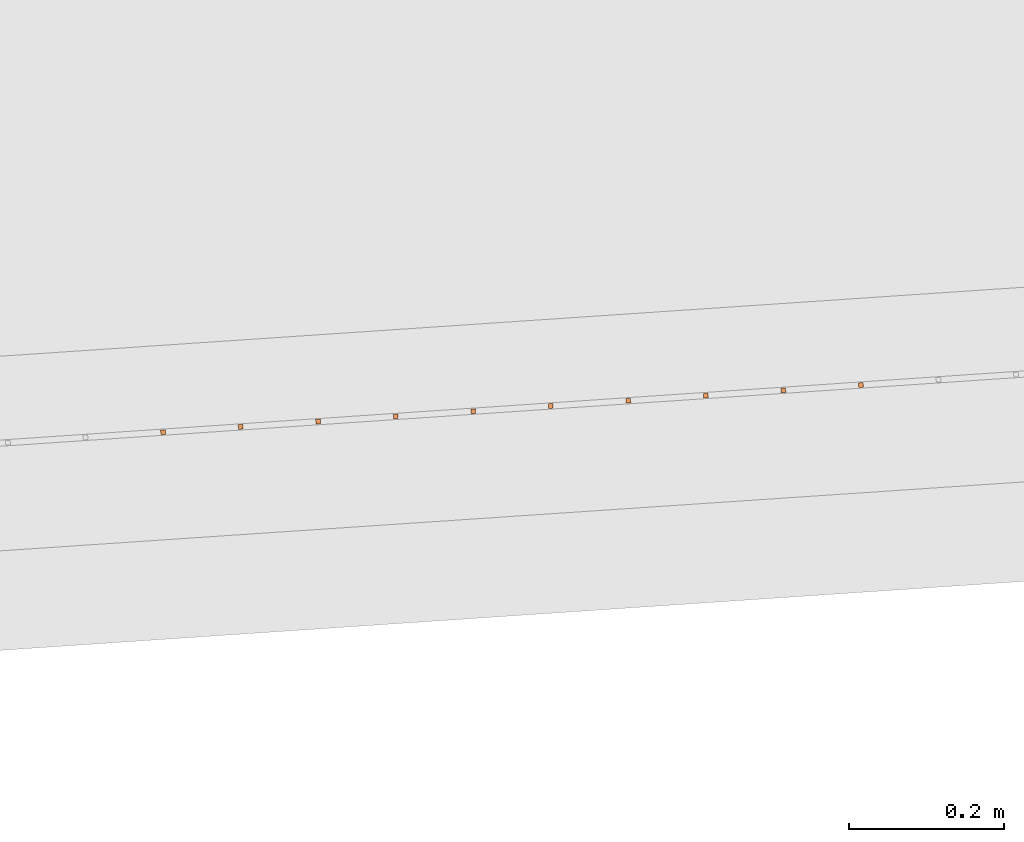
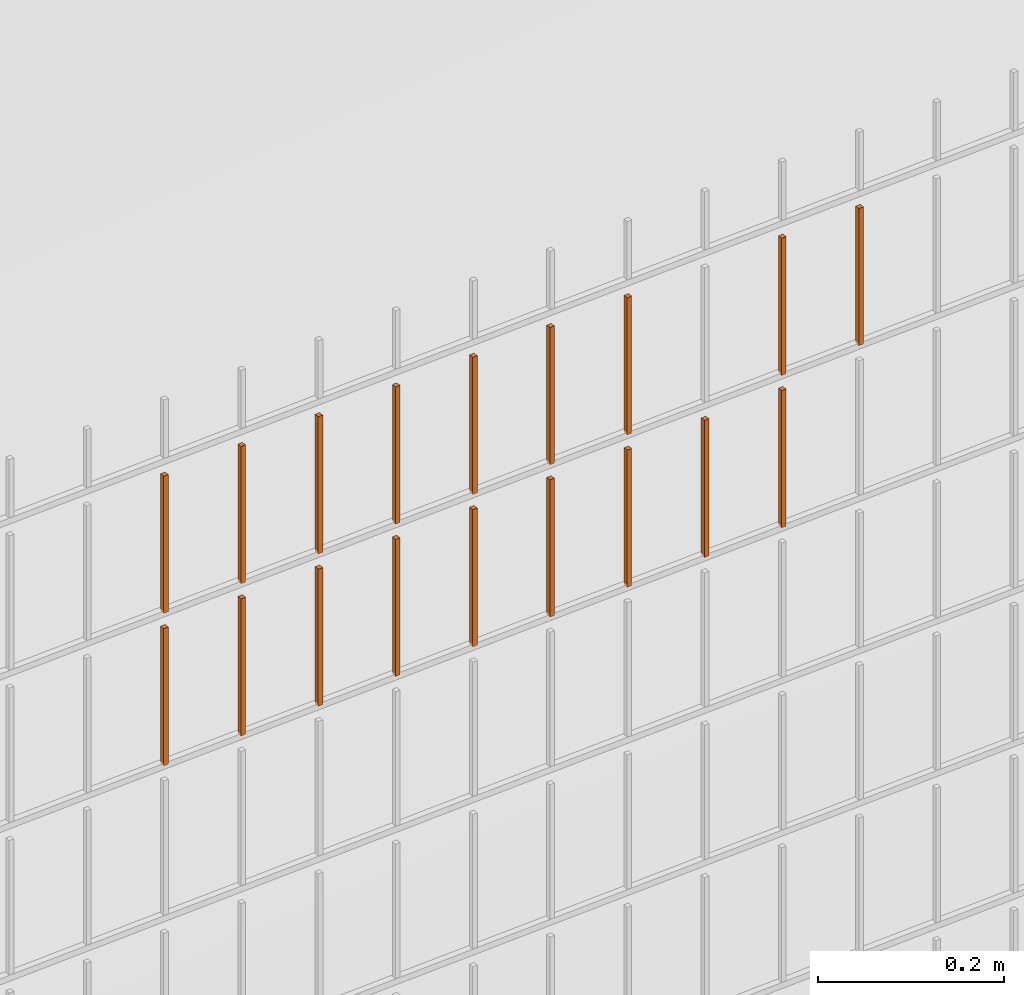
# One storey, part 186 of 1809: 18 proxies, 1 element without a shape of its own.
"""IFC2X3 building model written with IfcOpenShell, lengths in millimetres."""

from ifc_helpers import new_model, entity, si_unit, converted_unit, derived_unit, money_unit, direction, frame, origin_with_axes, place, context, subcontext, project, spatial, faceted_brep, source, transform, mapped, material, type_object, element, aggregate, save


model = new_model("IFC2X3")

# Units and contexts
model_context = context("Model", 3, precision=0.01, world=origin_with_axes(), true_north=direction((0.0, 1.0)))
body_context = subcontext(model_context, "Body", "Model", "MODEL_VIEW")
ifc_project = project(units=[si_unit("LENGTHUNIT", "METRE", prefix="MILLI"), si_unit("AREAUNIT", "SQUARE_METRE"), si_unit("VOLUMEUNIT", "CUBIC_METRE"), converted_unit("PLANEANGLEUNIT", "DEGREE", entity("IfcPlaneAngleMeasure", 0.0174532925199), si_unit("PLANEANGLEUNIT", "RADIAN"), dimensions=[0, 0, 0, 0, 0, 0, 0]), si_unit("SOLIDANGLEUNIT", "STERADIAN"), money_unit("EUR"), converted_unit("TIMEUNIT", "Year", entity("IfcTimeMeasure", 31556926.0), si_unit("TIMEUNIT", "SECOND"), dimensions=[0, 0, 1, 0, 0, 0, 0]), si_unit("MASSUNIT", "GRAM", prefix="KILO"), si_unit("THERMODYNAMICTEMPERATUREUNIT", "DEGREE_CELSIUS"), si_unit("LUMINOUSINTENSITYUNIT", "LUMEN"), si_unit("ENERGYUNIT", "JOULE", prefix="MEGA"), derived_unit("THERMALCONDUCTANCEUNIT", [(si_unit("POWERUNIT", "WATT"), 1), (si_unit("LENGTHUNIT", "METRE"), -1), (si_unit("THERMODYNAMICTEMPERATUREUNIT", "KELVIN"), -1)]), derived_unit("SPECIFICHEATCAPACITYUNIT", [(si_unit("ENERGYUNIT", "JOULE"), 1), (si_unit("MASSUNIT", "GRAM", prefix="KILO"), -1), (si_unit("THERMODYNAMICTEMPERATUREUNIT", "KELVIN"), -1)]), derived_unit("MASSDENSITYUNIT", [(si_unit("MASSUNIT", "GRAM", prefix="KILO"), 1), (si_unit("VOLUMEUNIT", "CUBIC_METRE"), -1)])], contexts=[model_context])

# Site, building, storey
site_placement = place(None, origin_with_axes())
site = spatial("IfcSite", under=ifc_project, at=site_placement, Name="Politse- ja Piirivalveameti ning Päästeameti ühishoone", CompositionType="ELEMENT")
building_placement = place(site_placement, origin_with_axes())
building = spatial("IfcBuilding", under=site, at=building_placement, Name="Politse- ja Piirivalveameti ning Päästeameti ühishoone", CompositionType="ELEMENT")
storey_placement = place(building_placement, origin_with_axes())
storey = spatial("IfcBuildingStorey", under=building, at=storey_placement, Name="Esimene korrus", CompositionType="ELEMENT", Elevation=0.0)

# Proxies
building_element_proxy_type_1 = type_object("IfcBuildingElementProxyType", Name="Railing Type", PredefinedType="NOTDEFINED")
proxy_1_placement = place(storey_placement, frame((89252.001212, -29183.4766571, 203.661247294), z_axis=(0.0, 0.0, 1.0), x_axis=(1.0, 0.0, 0.0)))
proxy_1 = element("IfcBuildingElementProxy", 1, at=proxy_1_placement, inside=storey, type_object=building_element_proxy_type_1, Name="PIIRDEAED")
ifc_material = material(Name="ET-03_Raud")
building_element_proxy_type_2 = type_object("IfcBuildingElementProxyType", Name="IfcBuildingElementProxy", PredefinedType="NOTDEFINED")
shared_shape_1 = source(origin_with_axes(), body_context, "Body", "Brep", [
    faceted_brep([(3.0, 3.0, -0.000752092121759), (-3.0, 3.0, -0.000752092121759), (-3.0, 3.0, 179.99926046), (3.0, 3.0, 179.99926046), (3.0, -3.0, 0.000752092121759), (-3.0, -3.0, 0.000752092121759), (-3.0, -3.0, 180.000764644), (3.0, -3.0, 180.000764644)], [[[0, 1, 2, 3]], [[0, 4, 5, 1]], [[1, 5, 6, 2]], [[3, 2, 6, 7]], [[4, 0, 3, 7]], [[5, 4, 7, 6]]]),
])
proxy_2_placement = place(proxy_1_placement, frame((-70964.9835948, -22091.1915912, 1809.40311162), z_axis=(0.0, 0.0, 1.0), x_axis=(1.0, 0.0, 0.0)))
proxy_2 = element("IfcBuildingElementProxy", 2, at=proxy_2_placement, type_object=building_element_proxy_type_2, material=ifc_material, Name="BALUSTER - 001", context=body_context, shape_type="MappedRepresentation", body=[
    mapped(shared_shape_1, transform((0.0, 0.0, 0.0), x_axis=(-0.0673926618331, 0.997726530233, 0.0), y_axis=(-0.997726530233, -0.0673926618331, 0.0), z_axis=(0.0, 0.0, 1.0))),
])
shared_shape_2 = source(origin_with_axes(), body_context, "Body", "Brep", [
    faceted_brep([(3.0, 3.0, -0.000752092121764), (-3.0, 3.0, -0.000752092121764), (-3.0, 3.0, 179.99926046), (3.0, 3.0, 179.99926046), (3.0, -3.0, 0.000752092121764), (-3.0, -3.0, 0.000752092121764), (-3.0, -3.0, 180.000764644), (3.0, -3.0, 180.000764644)], [[[0, 1, 2, 3]], [[0, 4, 5, 1]], [[1, 5, 6, 2]], [[3, 2, 6, 7]], [[4, 0, 3, 7]], [[5, 4, 7, 6]]]),
])
proxy_3_placement = place(proxy_1_placement, frame((-70266.5750236, -22044.016728, 1809.57859978), z_axis=(0.0, 0.0, 1.0), x_axis=(1.0, 0.0, 0.0)))
proxy_3 = element("IfcBuildingElementProxy", 3, at=proxy_3_placement, type_object=building_element_proxy_type_2, material=ifc_material, Name="BALUSTER - 001", context=body_context, shape_type="MappedRepresentation", body=[
    mapped(shared_shape_2, transform((0.0, 0.0, 0.0), x_axis=(-0.0673926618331, 0.997726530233, 0.0), y_axis=(-0.997726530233, -0.0673926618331, 0.0), z_axis=(0.0, 0.0, 1.0))),
])
shared_shape_3 = source(origin_with_axes(), body_context, "Body", "Brep", [
    faceted_brep([(3.0, 3.0, -0.000752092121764), (-3.0, 3.0, -0.000752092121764), (-3.0, 3.0, 179.99926046), (3.0, 3.0, 179.99926046), (3.0, -3.0, 0.000752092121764), (-3.0, -3.0, 0.000752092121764), (-3.0, -3.0, 180.000764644), (3.0, -3.0, 180.000764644)], [[[0, 1, 2, 3]], [[0, 4, 5, 1]], [[1, 5, 6, 2]], [[3, 2, 6, 7]], [[4, 0, 3, 7]], [[5, 4, 7, 6]]]),
])
proxy_4_placement = place(proxy_1_placement, frame((-70665.6656357, -22070.9737927, 1809.47832083), z_axis=(0.0, 0.0, 1.0), x_axis=(1.0, 0.0, 0.0)))
proxy_4 = element("IfcBuildingElementProxy", 4, at=proxy_4_placement, type_object=building_element_proxy_type_2, material=ifc_material, Name="BALUSTER - 001", context=body_context, shape_type="MappedRepresentation", body=[
    mapped(shared_shape_3, transform((0.0, 0.0, 0.0), x_axis=(-0.0673926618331, 0.997726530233, 0.0), y_axis=(-0.997726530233, -0.0673926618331, 0.0), z_axis=(0.0, 0.0, 1.0))),
])
shared_shape_4 = source(origin_with_axes(), body_context, "Body", "Brep", [
    faceted_brep([(3.0, 3.0, -0.000752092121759), (-3.0, 3.0, -0.000752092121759), (-3.0, 3.0, 179.99926046), (3.0, 3.0, 179.99926046), (3.0, -3.0, 0.000752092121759), (-3.0, -3.0, 0.000752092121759), (-3.0, -3.0, 180.000764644), (3.0, -3.0, 180.000764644)], [[[0, 1, 2, 3]], [[0, 4, 5, 1]], [[1, 5, 6, 2]], [[3, 2, 6, 7]], [[4, 0, 3, 7]], [[5, 4, 7, 6]]]),
])
proxy_5_placement = place(proxy_1_placement, frame((-70565.8929827, -22064.2345265, 1809.50339057), z_axis=(0.0, 0.0, 1.0), x_axis=(1.0, 0.0, 0.0)))
proxy_5 = element("IfcBuildingElementProxy", 5, at=proxy_5_placement, type_object=building_element_proxy_type_2, material=ifc_material, Name="BALUSTER - 001", context=body_context, shape_type="MappedRepresentation", body=[
    mapped(shared_shape_4, transform((0.0, 0.0, 0.0), x_axis=(-0.0673926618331, 0.997726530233, 0.0), y_axis=(-0.997726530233, -0.0673926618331, 0.0), z_axis=(0.0, 0.0, 1.0))),
])
shared_shape_5 = source(origin_with_axes(), body_context, "Body", "Brep", [
    faceted_brep([(3.0, 3.0, -0.000752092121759), (-3.0, 3.0, -0.000752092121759), (-3.0, 3.0, 179.99926046), (3.0, 3.0, 179.99926046), (3.0, -3.0, 0.000752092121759), (-3.0, -3.0, 0.000752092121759), (-3.0, -3.0, 180.000764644), (3.0, -3.0, 180.000764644)], [[[0, 1, 2, 3]], [[0, 4, 5, 1]], [[1, 5, 6, 2]], [[3, 2, 6, 7]], [[4, 0, 3, 7]], [[5, 4, 7, 6]]]),
])
proxy_6_placement = place(proxy_1_placement, frame((-70865.2109417, -22084.4523251, 1809.42818136), z_axis=(0.0, 0.0, 1.0), x_axis=(1.0, 0.0, 0.0)))
proxy_6 = element("IfcBuildingElementProxy", 6, at=proxy_6_placement, type_object=building_element_proxy_type_2, material=ifc_material, Name="BALUSTER - 001", context=body_context, shape_type="MappedRepresentation", body=[
    mapped(shared_shape_5, transform((0.0, 0.0, 0.0), x_axis=(-0.0673926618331, 0.997726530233, 0.0), y_axis=(-0.997726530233, -0.0673926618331, 0.0), z_axis=(0.0, 0.0, 1.0))),
])
shared_shape_6 = source(origin_with_axes(), body_context, "Body", "Brep", [
    faceted_brep([(3.0, 3.0, -0.000752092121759), (-3.0, 3.0, -0.000752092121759), (-3.0, 3.0, 179.99926046), (3.0, 3.0, 179.99926046), (3.0, -3.0, 0.000752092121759), (-3.0, -3.0, 0.000752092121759), (-3.0, -3.0, 180.000764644), (3.0, -3.0, 180.000764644)], [[[0, 1, 2, 3]], [[0, 4, 5, 1]], [[1, 5, 6, 2]], [[3, 2, 6, 7]], [[4, 0, 3, 7]], [[5, 4, 7, 6]]]),
])
proxy_7_placement = place(proxy_1_placement, frame((-70565.8929827, -22064.2345265, 1609.50339057), z_axis=(0.0, 0.0, 1.0), x_axis=(1.0, 0.0, 0.0)))
proxy_7 = element("IfcBuildingElementProxy", 7, at=proxy_7_placement, type_object=building_element_proxy_type_2, material=ifc_material, Name="BALUSTER - 001", context=body_context, shape_type="MappedRepresentation", body=[
    mapped(shared_shape_6, transform((0.0, 0.0, 0.0), x_axis=(-0.0673926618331, 0.997726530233, 0.0), y_axis=(-0.997726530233, -0.0673926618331, 0.0), z_axis=(0.0, 0.0, 1.0))),
])
shared_shape_7 = source(origin_with_axes(), body_context, "Body", "Brep", [
    faceted_brep([(3.0, 3.0, -0.000752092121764), (-3.0, 3.0, -0.000752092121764), (-3.0, 3.0, 179.99926046), (3.0, 3.0, 179.99926046), (3.0, -3.0, 0.000752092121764), (-3.0, -3.0, 0.000752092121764), (-3.0, -3.0, 180.000764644), (3.0, -3.0, 180.000764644)], [[[0, 1, 2, 3]], [[0, 4, 5, 1]], [[1, 5, 6, 2]], [[3, 2, 6, 7]], [[4, 0, 3, 7]], [[5, 4, 7, 6]]]),
])
proxy_8_placement = place(proxy_1_placement, frame((-70366.3476766, -22050.7559941, 1809.55353004), z_axis=(0.0, 0.0, 1.0), x_axis=(1.0, 0.0, 0.0)))
proxy_8 = element("IfcBuildingElementProxy", 8, at=proxy_8_placement, type_object=building_element_proxy_type_2, material=ifc_material, Name="BALUSTER - 001", context=body_context, shape_type="MappedRepresentation", body=[
    mapped(shared_shape_7, transform((0.0, 0.0, 0.0), x_axis=(-0.0673926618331, 0.997726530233, 0.0), y_axis=(-0.997726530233, -0.0673926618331, 0.0), z_axis=(0.0, 0.0, 1.0))),
])
shared_shape_8 = source(origin_with_axes(), body_context, "Body", "Brep", [
    faceted_brep([(3.0, 3.0, -0.000752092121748), (-3.0, 3.0, -0.00075209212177), (-3.0, 3.0, 179.99926046), (3.0, 3.0, 179.99926046), (3.0, -3.0, 0.00075209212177), (-3.0, -3.0, 0.000752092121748), (-3.0, -3.0, 180.000764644), (3.0, -3.0, 180.000764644)], [[[0, 1, 2, 3]], [[0, 4, 5, 1]], [[1, 5, 6, 2]], [[3, 2, 6, 7]], [[4, 0, 3, 7]], [[5, 4, 7, 6]]]),
])
proxy_9_placement = place(proxy_1_placement, frame((-71164.5289008, -22104.6701236, 1809.35297215), z_axis=(0.0, 0.0, 1.0), x_axis=(1.0, 0.0, 0.0)))
proxy_9 = element("IfcBuildingElementProxy", 9, at=proxy_9_placement, type_object=building_element_proxy_type_2, material=ifc_material, Name="BALUSTER - 001", context=body_context, shape_type="MappedRepresentation", body=[
    mapped(shared_shape_8, transform((0.0, 0.0, 0.0), x_axis=(-0.0673926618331, 0.997726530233, 0.0), y_axis=(-0.997726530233, -0.0673926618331, 0.0), z_axis=(0.0, 0.0, 1.0))),
])
shared_shape_9 = source(origin_with_axes(), body_context, "Body", "Brep", [
    faceted_brep([(3.0, 3.0, -0.000752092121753), (-3.0, 3.0, -0.000752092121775), (-3.0, 3.0, 179.99926046), (3.0, 3.0, 179.99926046), (3.0, -3.0, 0.000752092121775), (-3.0, -3.0, 0.000752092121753), (-3.0, -3.0, 180.000764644), (3.0, -3.0, 180.000764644)], [[[0, 1, 2, 3]], [[0, 4, 5, 1]], [[1, 5, 6, 2]], [[3, 2, 6, 7]], [[4, 0, 3, 7]], [[5, 4, 7, 6]]]),
])
proxy_10_placement = place(proxy_1_placement, frame((-71064.7562478, -22097.9308574, 1809.37804188), z_axis=(0.0, 0.0, 1.0), x_axis=(1.0, 0.0, 0.0)))
proxy_10 = element("IfcBuildingElementProxy", 10, at=proxy_10_placement, type_object=building_element_proxy_type_2, material=ifc_material, Name="BALUSTER - 001", context=body_context, shape_type="MappedRepresentation", body=[
    mapped(shared_shape_9, transform((0.0, 0.0, 0.0), x_axis=(-0.0673926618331, 0.997726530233, 0.0), y_axis=(-0.997726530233, -0.0673926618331, 0.0), z_axis=(0.0, 0.0, 1.0))),
])
shared_shape_10 = source(origin_with_axes(), body_context, "Body", "Brep", [
    faceted_brep([(3.0, 3.0, -0.000752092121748), (-3.0, 3.0, -0.00075209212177), (-3.0, 3.0, 179.99926046), (3.0, 3.0, 179.99926046), (3.0, -3.0, 0.00075209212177), (-3.0, -3.0, 0.000752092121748), (-3.0, -3.0, 180.000764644), (3.0, -3.0, 180.000764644)], [[[0, 1, 2, 3]], [[0, 4, 5, 1]], [[1, 5, 6, 2]], [[3, 2, 6, 7]], [[4, 0, 3, 7]], [[5, 4, 7, 6]]]),
])
proxy_11_placement = place(proxy_1_placement, frame((-71164.5289008, -22104.6701236, 1609.35297215), z_axis=(0.0, 0.0, 1.0), x_axis=(1.0, 0.0, 0.0)))
proxy_11 = element("IfcBuildingElementProxy", 11, at=proxy_11_placement, type_object=building_element_proxy_type_2, material=ifc_material, Name="BALUSTER - 001", context=body_context, shape_type="MappedRepresentation", body=[
    mapped(shared_shape_10, transform((0.0, 0.0, 0.0), x_axis=(-0.0673926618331, 0.997726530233, 0.0), y_axis=(-0.997726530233, -0.0673926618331, 0.0), z_axis=(0.0, 0.0, 1.0))),
])
shared_shape_11 = source(origin_with_axes(), body_context, "Body", "Brep", [
    faceted_brep([(3.0, 3.0, -0.000752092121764), (-3.0, 3.0, -0.000752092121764), (-3.0, 3.0, 179.99926046), (3.0, 3.0, 179.99926046), (3.0, -3.0, 0.000752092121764), (-3.0, -3.0, 0.000752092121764), (-3.0, -3.0, 180.000764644), (3.0, -3.0, 180.000764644)], [[[0, 1, 2, 3]], [[0, 4, 5, 1]], [[1, 5, 6, 2]], [[3, 2, 6, 7]], [[4, 0, 3, 7]], [[5, 4, 7, 6]]]),
])
proxy_12_placement = place(proxy_1_placement, frame((-70366.3476766, -22050.7559941, 1609.55353004), z_axis=(0.0, 0.0, 1.0), x_axis=(1.0, 0.0, 0.0)))
proxy_12 = element("IfcBuildingElementProxy", 12, at=proxy_12_placement, type_object=building_element_proxy_type_2, material=ifc_material, Name="BALUSTER - 001", context=body_context, shape_type="MappedRepresentation", body=[
    mapped(shared_shape_11, transform((0.0, 0.0, 0.0), x_axis=(-0.0673926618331, 0.997726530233, 0.0), y_axis=(-0.997726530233, -0.0673926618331, 0.0), z_axis=(0.0, 0.0, 1.0))),
])
shared_shape_12 = source(origin_with_axes(), body_context, "Body", "Brep", [
    faceted_brep([(3.0, 3.0, -0.000752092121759), (-3.0, 3.0, -0.000752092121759), (-3.0, 3.0, 179.99926046), (3.0, 3.0, 179.99926046), (3.0, -3.0, 0.000752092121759), (-3.0, -3.0, 0.000752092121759), (-3.0, -3.0, 180.000764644), (3.0, -3.0, 180.000764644)], [[[0, 1, 2, 3]], [[0, 4, 5, 1]], [[1, 5, 6, 2]], [[3, 2, 6, 7]], [[4, 0, 3, 7]], [[5, 4, 7, 6]]]),
])
proxy_13_placement = place(proxy_1_placement, frame((-70865.2109417, -22084.4523251, 1609.42818136), z_axis=(0.0, 0.0, 1.0), x_axis=(1.0, 0.0, 0.0)))
proxy_13 = element("IfcBuildingElementProxy", 13, at=proxy_13_placement, type_object=building_element_proxy_type_2, material=ifc_material, Name="BALUSTER - 001", context=body_context, shape_type="MappedRepresentation", body=[
    mapped(shared_shape_12, transform((0.0, 0.0, 0.0), x_axis=(-0.0673926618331, 0.997726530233, 0.0), y_axis=(-0.997726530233, -0.0673926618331, 0.0), z_axis=(0.0, 0.0, 1.0))),
])
shared_shape_13 = source(origin_with_axes(), body_context, "Body", "Brep", [
    faceted_brep([(3.0, 3.0, -0.000752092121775), (-3.0, 3.0, -0.000752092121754), (-3.0, 3.0, 179.99926046), (3.0, 3.0, 179.99926046), (3.0, -3.0, 0.000752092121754), (-3.0, -3.0, 0.000752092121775), (-3.0, -3.0, 180.000764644), (3.0, -3.0, 180.000764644)], [[[0, 1, 2, 3]], [[0, 4, 5, 1]], [[1, 5, 6, 2]], [[3, 2, 6, 7]], [[4, 0, 3, 7]], [[5, 4, 7, 6]]]),
])
proxy_14_placement = place(proxy_1_placement, frame((-70765.4382887, -22077.7130589, 1609.4532511), z_axis=(0.0, 0.0, 1.0), x_axis=(1.0, 0.0, 0.0)))
proxy_14 = element("IfcBuildingElementProxy", 14, at=proxy_14_placement, type_object=building_element_proxy_type_2, material=ifc_material, Name="BALUSTER - 001", context=body_context, shape_type="MappedRepresentation", body=[
    mapped(shared_shape_13, transform((0.0, 0.0, 0.0), x_axis=(-0.0673926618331, 0.997726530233, 0.0), y_axis=(-0.997726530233, -0.0673926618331, 0.0), z_axis=(0.0, 0.0, 1.0))),
])
shared_shape_14 = source(origin_with_axes(), body_context, "Body", "Brep", [
    faceted_brep([(3.0, 3.0, -0.000752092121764), (-3.0, 3.0, -0.000752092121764), (-3.0, 3.0, 179.99926046), (3.0, 3.0, 179.99926046), (3.0, -3.0, 0.000752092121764), (-3.0, -3.0, 0.000752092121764), (-3.0, -3.0, 180.000764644), (3.0, -3.0, 180.000764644)], [[[0, 1, 2, 3]], [[0, 4, 5, 1]], [[1, 5, 6, 2]], [[3, 2, 6, 7]], [[4, 0, 3, 7]], [[5, 4, 7, 6]]]),
])
proxy_15_placement = place(proxy_1_placement, frame((-70665.6656357, -22070.9737927, 1609.47832083), z_axis=(0.0, 0.0, 1.0), x_axis=(1.0, 0.0, 0.0)))
proxy_15 = element("IfcBuildingElementProxy", 15, at=proxy_15_placement, type_object=building_element_proxy_type_2, material=ifc_material, Name="BALUSTER - 001", context=body_context, shape_type="MappedRepresentation", body=[
    mapped(shared_shape_14, transform((0.0, 0.0, 0.0), x_axis=(-0.0673926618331, 0.997726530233, 0.0), y_axis=(-0.997726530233, -0.0673926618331, 0.0), z_axis=(0.0, 0.0, 1.0))),
])
shared_shape_15 = source(origin_with_axes(), body_context, "Body", "Brep", [
    faceted_brep([(3.0, 3.0, -0.000752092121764), (-3.0, 3.0, -0.000752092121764), (-3.0, 3.0, 179.99926046), (3.0, 3.0, 179.99926046), (3.0, -3.0, 0.000752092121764), (-3.0, -3.0, 0.000752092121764), (-3.0, -3.0, 180.000764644), (3.0, -3.0, 180.000764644)], [[[0, 1, 2, 3]], [[0, 4, 5, 1]], [[1, 5, 6, 2]], [[3, 2, 6, 7]], [[4, 0, 3, 7]], [[5, 4, 7, 6]]]),
])
proxy_16_placement = place(proxy_1_placement, frame((-70466.1203296, -22057.4952603, 1609.52846031), z_axis=(0.0, 0.0, 1.0), x_axis=(1.0, 0.0, 0.0)))
proxy_16 = element("IfcBuildingElementProxy", 16, at=proxy_16_placement, type_object=building_element_proxy_type_2, material=ifc_material, Name="BALUSTER - 001", context=body_context, shape_type="MappedRepresentation", body=[
    mapped(shared_shape_15, transform((0.0, 0.0, 0.0), x_axis=(-0.0673926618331, 0.997726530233, 0.0), y_axis=(-0.997726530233, -0.0673926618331, 0.0), z_axis=(0.0, 0.0, 1.0))),
])
shared_shape_16 = source(origin_with_axes(), body_context, "Body", "Brep", [
    faceted_brep([(3.0, 3.0, -0.000752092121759), (-3.0, 3.0, -0.000752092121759), (-3.0, 3.0, 179.99926046), (3.0, 3.0, 179.99926046), (3.0, -3.0, 0.000752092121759), (-3.0, -3.0, 0.000752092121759), (-3.0, -3.0, 180.000764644), (3.0, -3.0, 180.000764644)], [[[0, 1, 2, 3]], [[0, 4, 5, 1]], [[1, 5, 6, 2]], [[3, 2, 6, 7]], [[4, 0, 3, 7]], [[5, 4, 7, 6]]]),
])
proxy_17_placement = place(proxy_1_placement, frame((-70964.9835948, -22091.1915912, 1609.40311162), z_axis=(0.0, 0.0, 1.0), x_axis=(1.0, 0.0, 0.0)))
proxy_17 = element("IfcBuildingElementProxy", 17, at=proxy_17_placement, type_object=building_element_proxy_type_2, material=ifc_material, Name="BALUSTER - 001", context=body_context, shape_type="MappedRepresentation", body=[
    mapped(shared_shape_16, transform((0.0, 0.0, 0.0), x_axis=(-0.0673926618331, 0.997726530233, 0.0), y_axis=(-0.997726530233, -0.0673926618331, 0.0), z_axis=(0.0, 0.0, 1.0))),
])
shared_shape_17 = source(origin_with_axes(), body_context, "Body", "Brep", [
    faceted_brep([(3.0, 3.0, -0.000752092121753), (-3.0, 3.0, -0.000752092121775), (-3.0, 3.0, 179.99926046), (3.0, 3.0, 179.99926046), (3.0, -3.0, 0.000752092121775), (-3.0, -3.0, 0.000752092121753), (-3.0, -3.0, 180.000764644), (3.0, -3.0, 180.000764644)], [[[0, 1, 2, 3]], [[0, 4, 5, 1]], [[1, 5, 6, 2]], [[3, 2, 6, 7]], [[4, 0, 3, 7]], [[5, 4, 7, 6]]]),
])
proxy_18_placement = place(proxy_1_placement, frame((-71064.7562478, -22097.9308574, 1609.37804188), z_axis=(0.0, 0.0, 1.0), x_axis=(1.0, 0.0, 0.0)))
proxy_18 = element("IfcBuildingElementProxy", 18, at=proxy_18_placement, type_object=building_element_proxy_type_2, material=ifc_material, Name="BALUSTER - 001", context=body_context, shape_type="MappedRepresentation", body=[
    mapped(shared_shape_17, transform((0.0, 0.0, 0.0), x_axis=(-0.0673926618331, 0.997726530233, 0.0), y_axis=(-0.997726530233, -0.0673926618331, 0.0), z_axis=(0.0, 0.0, 1.0))),
])
shared_shape_18 = source(origin_with_axes(), body_context, "Body", "Brep", [
    faceted_brep([(3.0, 3.0, -0.00075209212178), (-3.0, 3.0, -0.000752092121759), (-3.0, 3.0, 179.99926046), (3.0, 3.0, 179.99926046), (3.0, -3.0, 0.000752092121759), (-3.0, -3.0, 0.00075209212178), (-3.0, -3.0, 180.000764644), (3.0, -3.0, 180.000764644)], [[[0, 1, 2, 3]], [[0, 4, 5, 1]], [[1, 5, 6, 2]], [[3, 2, 6, 7]], [[4, 0, 3, 7]], [[5, 4, 7, 6]]]),
])
proxy_19_placement = place(proxy_1_placement, frame((-70765.4382887, -22077.7130589, 1809.4532511), z_axis=(0.0, 0.0, 1.0), x_axis=(1.0, 0.0, 0.0)))
proxy_19 = element("IfcBuildingElementProxy", 19, at=proxy_19_placement, type_object=building_element_proxy_type_2, material=ifc_material, Name="BALUSTER - 001", context=body_context, shape_type="MappedRepresentation", body=[
    mapped(shared_shape_18, transform((0.0, 0.0, 0.0), x_axis=(-0.0673926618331, 0.997726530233, 0.0), y_axis=(-0.997726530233, -0.0673926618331, 0.0), z_axis=(0.0, 0.0, 1.0))),
])
aggregate(proxy_1, [proxy_12, proxy_16, proxy_7, proxy_15, proxy_14, proxy_13, proxy_17, proxy_18, proxy_11, proxy_3, proxy_8, proxy_5, proxy_4, proxy_19, proxy_6, proxy_2, proxy_10, proxy_9])

save(model, "model.ifc")
